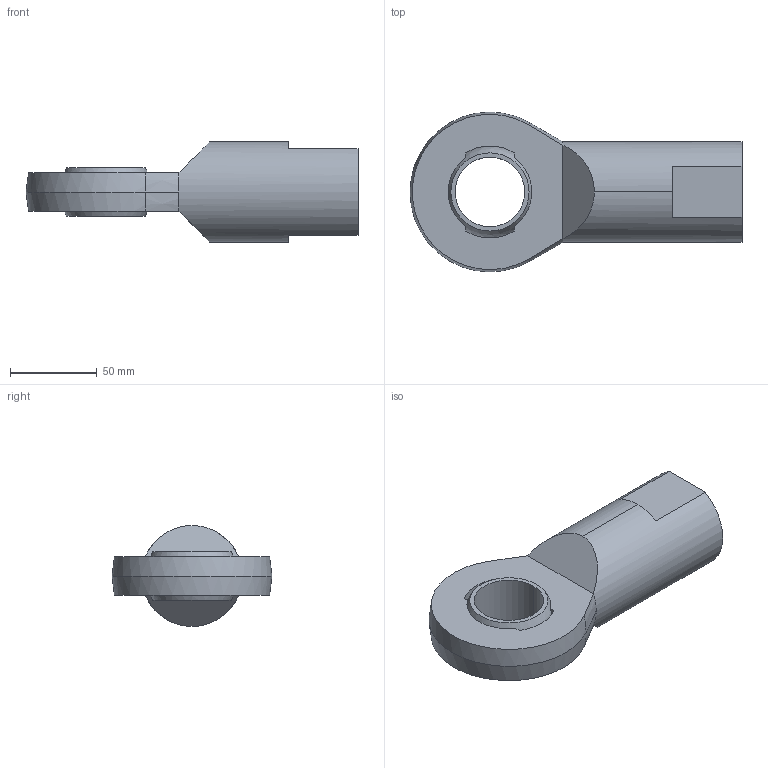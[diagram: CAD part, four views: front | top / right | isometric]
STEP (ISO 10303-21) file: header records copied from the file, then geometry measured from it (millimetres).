
FILE_DESCRIPTION (( 'STEP AP203' ), '1' );
FILE_NAME ('65880.W0140.step', '2014-02-06T18:36:33', ( 'User' ), ( '' ), 'SwSTEP 2.0', 'SolidWorks 2009', '' );
FILE_SCHEMA (( 'CONFIG_CONTROL_DESIGN' ));
Length unit declared in the file: millimetre
Products named in the file (3): 65880.W0140; Part1_65880.W0140; Part2_65880.W0140
Assembly tree (2 placements, depth 2):
  65880.W0140
    Part1_65880.W0140
    Part2_65880.W0140
Bounding box: 191 x 92 x 58 mm (x, y, z)
Volume: 275584.8 mm3; surface area: 57233.2 mm2
Topology: 2 solids, 2 shells, 45 faces, 108 edges, 67 vertices
Faces by surface type: plane 20, cylinder 10, sphere 8, cone 7
Entity records: 1624 total; most frequent: DIRECTION 253, CARTESIAN_POINT 253, ORIENTED_EDGE 208, AXIS2_PLACEMENT_3D 107, EDGE_CURVE 104, VERTEX_POINT 67, CIRCLE 57, EDGE_LOOP 53
